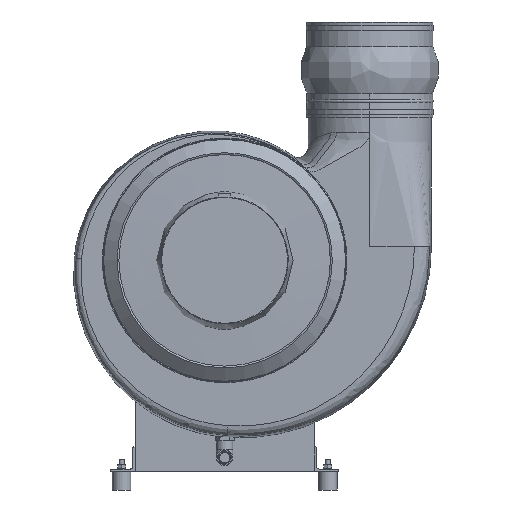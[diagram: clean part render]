
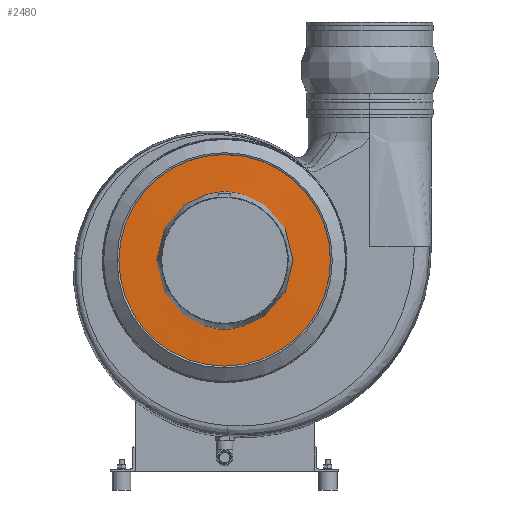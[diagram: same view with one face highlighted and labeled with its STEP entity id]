
A CAD part, front view. The second image highlights one B-rep face of the part: STEP entity #2480.
In plain terms, the highlighted conical face has half-angle 87.858 degrees and reference radius 135.667 mm.
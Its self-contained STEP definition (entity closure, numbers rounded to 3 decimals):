
#2480 = ADVANCED_FACE( '', ( #5828, #5829 ), #5830, .T. );
#5828 = FACE_BOUND( '', #14749, .T. );
#5829 = FACE_OUTER_BOUND( '', #14750, .T. );
#5830 = CONICAL_SURFACE( '', #14751, 135.667, 1.533 );
#14749 = EDGE_LOOP( '', ( #41963 ) );
#14750 = EDGE_LOOP( '', ( #41964 ) );
#14751 = AXIS2_PLACEMENT_3D( '', #41965, #41966, #41967 );
#41963 = ORIENTED_EDGE( '', *, *, #51920, .F. );
#41964 = ORIENTED_EDGE( '', *, *, #50809, .T. );
#41965 = CARTESIAN_POINT( '', ( 41.334, 0., 0. ) );
#41966 = DIRECTION( '', ( 1., 0., 0. ) );
#41967 = DIRECTION( '', ( 0., 0., -1. ) );
#50809 = EDGE_CURVE( '', #55008, #55008, #55009, .T. );
#51920 = EDGE_CURVE( '', #56928, #56928, #56929, .T. );
#55008 = VERTEX_POINT( '', #61654 );
#55009 = CIRCLE( '', #61655, 171.333 );
#56928 = VERTEX_POINT( '', #67033 );
#56929 = CIRCLE( '', #67034, 100. );
#61654 = CARTESIAN_POINT( '', ( 42.669, 0., 171.333 ) );
#61655 = AXIS2_PLACEMENT_3D( '', #79298, #79299, #79300 );
#67033 = CARTESIAN_POINT( '', ( 40., 0., 100. ) );
#67034 = AXIS2_PLACEMENT_3D( '', #80498, #80499, #80500 );
#79298 = CARTESIAN_POINT( '', ( 42.669, 0., 0. ) );
#79299 = DIRECTION( '', ( -1., 0., 0. ) );
#79300 = DIRECTION( '', ( 0., 0., 1. ) );
#80498 = CARTESIAN_POINT( '', ( 40., 0., 0. ) );
#80499 = DIRECTION( '', ( -1., 0., 0. ) );
#80500 = DIRECTION( '', ( 0., 0., 1. ) );
